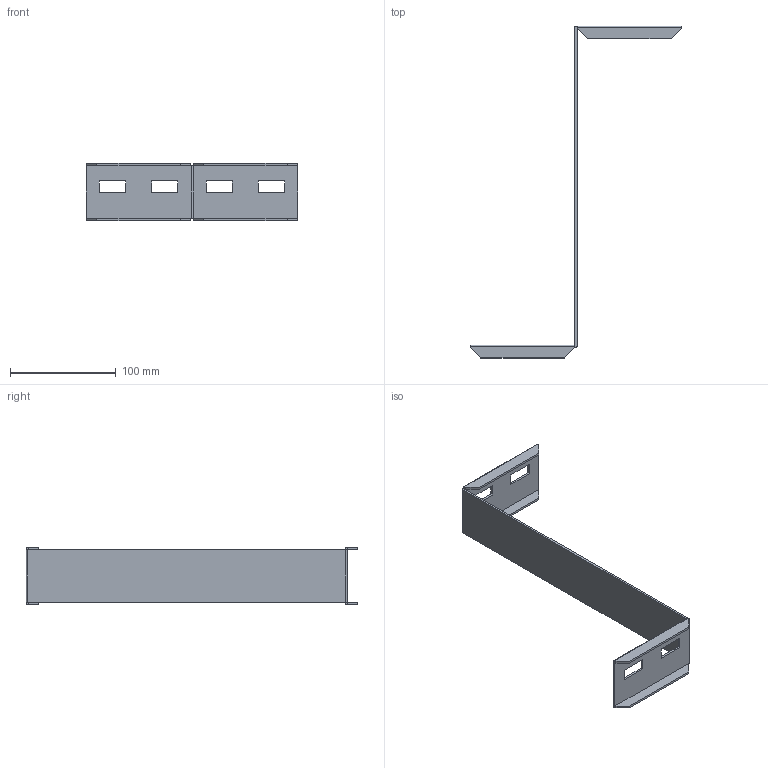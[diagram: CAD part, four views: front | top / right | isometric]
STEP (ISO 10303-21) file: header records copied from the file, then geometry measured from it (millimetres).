
FILE_DESCRIPTION(/* description */ ('','CAx-IF Rec.Pracs.---Representation and Presentation of Product Manufacturing Information (PMI)---4.0---2014-10-13'),/* implementation_level */ '2;1');
FILE_NAME(/* name */ 'Eurostrut_ERHR60-300_Right Hand Reducer for Cable Ladder ECL.step',/* time_stamp */ '2026-09-08T14:06:27+02:00',/* author */ (''),/* organization */ (''),/* preprocessor_version */ 'ST-DEVELOPER v20.1',/* originating_system */ 'Autodesk Revit 2027 27.2.0.39',/* authorisation */ '');
FILE_SCHEMA (('AP242_MANAGED_MODEL_BASED_3D_ENGINEERING_MIM_LF { 1 0 10303 442 2 1 4 }'));
Length unit declared in the file: millimetre
Products named in the file (4): TopLevelAssembly; Joined Solid Geometry; Joined Solid Geometry_1; Joined Solid Geometry_2
Assembly tree (3 placements, depth 2):
  TopLevelAssembly
    Joined Solid Geometry
    Joined Solid Geometry_1
    Joined Solid Geometry_2
Bounding box: 200 x 314 x 54 mm (x, y, z)
Volume: 56597.6 mm3; surface area: 60954.8 mm2
Topology: 5 solids, 5 shells, 64 faces, 162 edges, 108 vertices
Faces by surface type: plane 58, cylinder 6
Entity records: 1984 total; most frequent: CARTESIAN_POINT 341, ORIENTED_EDGE 324, DIRECTION 316, EDGE_CURVE 162, LINE 150, VECTOR 150, VERTEX_POINT 108, AXIS2_PLACEMENT_3D 83
